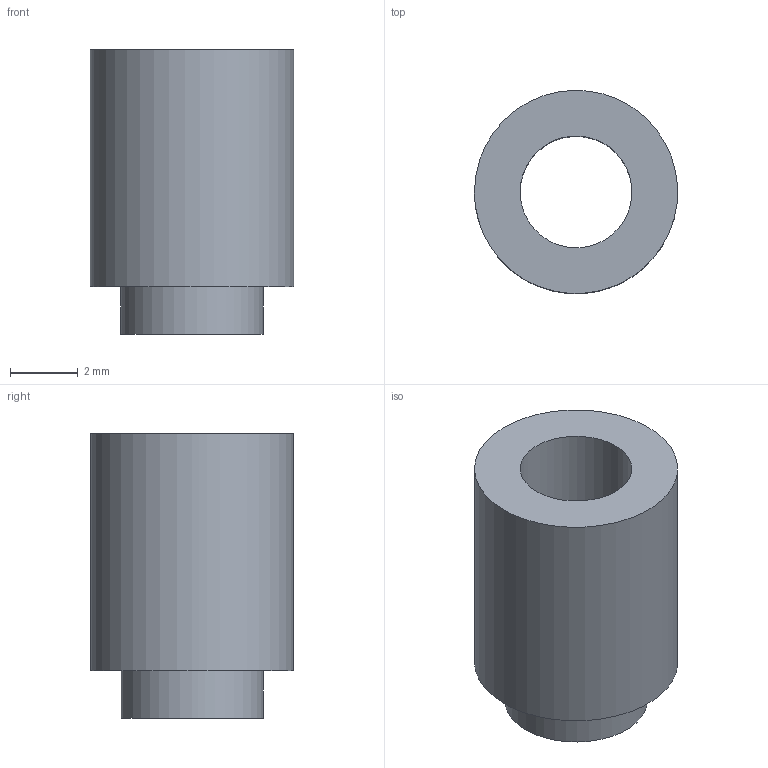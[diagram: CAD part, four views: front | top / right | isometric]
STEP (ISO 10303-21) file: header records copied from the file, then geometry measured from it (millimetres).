
FILE_DESCRIPTION(('FreeCAD Model'),'2;1');
FILE_NAME('Open CASCADE Shape Model','2026-03-20T17:23:21',('Author'),( ''),'Open CASCADE STEP processor 7.8','FreeCAD','Unknown');
FILE_SCHEMA(('AP242_MANAGED_MODEL_BASED_3D_ENGINEERING_MIM_LF. {1 0 10303 442 1 1 4 }'));
Length unit declared in the file: millimetre
Products named in the file (1): 1_transformed
Bounding box: 6 x 5.99 x 8.4 mm (x, y, z)
Volume: 146.7 mm3; surface area: 277.6 mm2
Topology: 1 solids, 1 shells, 6 faces, 9 edges, 6 vertices
Faces by surface type: bspline 6
Entity records: 201 total; most frequent: CARTESIAN_POINT 109, ORIENTED_EDGE 18, FACE_BOUND 9, EDGE_LOOP 9, EDGE_CURVE 9, ADVANCED_FACE 6, VERTEX_POINT 6, B_SPLINE_SURFACE_WITH_KNOTS 3
